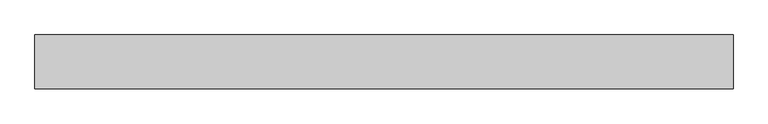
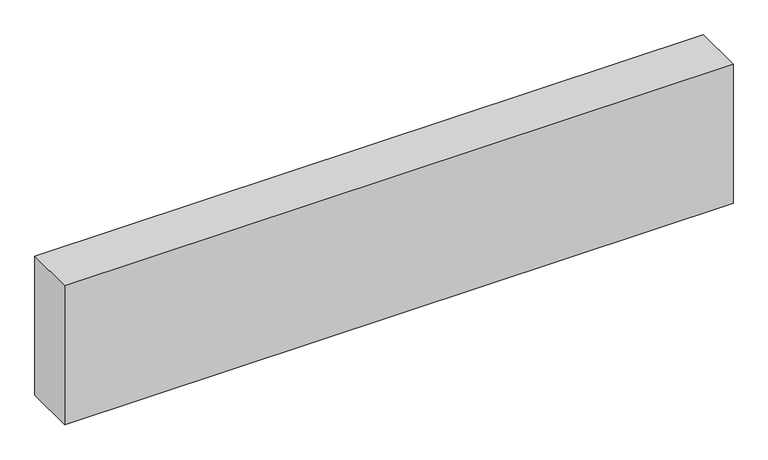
"""IFC4 building model written with IfcOpenShell, lengths in millimetres: proxy geometry."""

from ifc_helpers import new_model, si_unit, frame, origin, place, context, project, spatial, polyline, outline, extrude, source, transform, mapped, element, save


def structural_framing_ef9fb706(model_context):
    return source(origin(), model_context, "Body", "SweptSolid", [
        extrude(outline(polyline([(-910.0, -70.0), (-910.0, 70.0), (910.0, 70.0), (910.0, -70.0), (-910.0, -70.0)])), frame((0.0, 0.0, -400.0), z_axis=(0.0, 0.0, 1.0), x_axis=(1.0, 0.0, 0.0)), (0.0, 0.0, 1.0), 400.0),
    ])


if __name__ == "__main__":
    model = new_model("IFC4")
    model_context = context("Model", 3, world=origin())
    ifc_project = project(units=[si_unit("LENGTHUNIT", "METRE", prefix="MILLI")], contexts=[model_context])
    site = spatial("IfcSite", under=ifc_project)
    building = spatial("IfcBuilding", under=site)
    placement = place(None, origin())
    structural_framing_shape = structural_framing_ef9fb706(model_context)
    element("IfcBuildingElementProxy", 1, Name="Structural Framing", at=placement, inside=building, context=model_context, shape_type="MappedRepresentation", body=[
        mapped(structural_framing_shape, transform((0.0, 0.0, 0.0), x_axis=(1.0, 0.0, 0.0), y_axis=(0.0, 1.0, 0.0), z_axis=(0.0, 0.0, 1.0))),
    ])
    save(model, "model.ifc")
